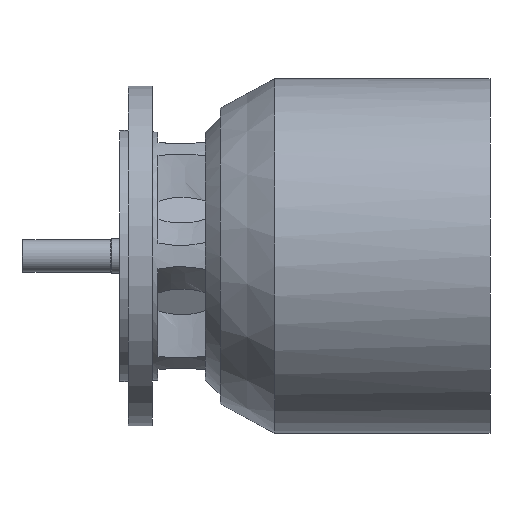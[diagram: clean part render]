
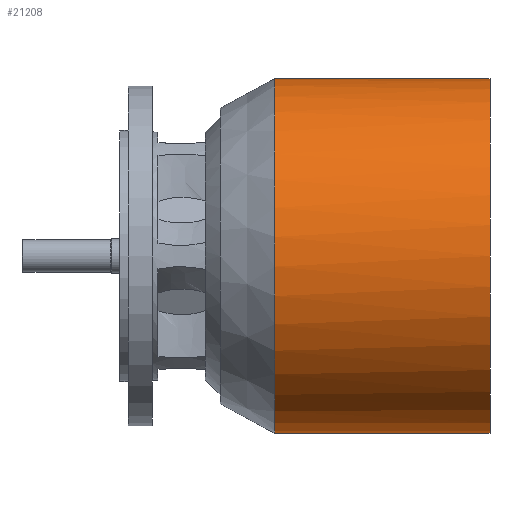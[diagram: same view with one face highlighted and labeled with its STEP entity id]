
A CAD part, front view. The second image highlights one B-rep face of the part: STEP entity #21208.
In plain terms, the highlighted cylindrical face has radius 60 mm (diameter 120 mm), a full revolution.
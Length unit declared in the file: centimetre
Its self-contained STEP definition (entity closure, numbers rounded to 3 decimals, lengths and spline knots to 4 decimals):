
#34=ELLIPSE('',#23179,6.0003,6.);
#639=FACE_BOUND('',#4111,.T.);
#640=FACE_BOUND('',#4112,.T.);
#2580=FACE_OUTER_BOUND('',#4110,.T.);
#4110=EDGE_LOOP('',(#19210,#19211,#19212,#19213,#19214,#19215));
#4111=EDGE_LOOP('',(#19216,#19217,#19218,#19219));
#4112=EDGE_LOOP('',(#19220));
#4597=B_SPLINE_CURVE_WITH_KNOTS('',3,(#37561,#37562,#37563,#37564,#37565,
#37566,#37567,#37568,#37569,#37570),.UNSPECIFIED.,.F.,.F.,(4,2,2,2,4),(-2.8818,
-2.7183,-2.5548,-2.3509,-2.147),
 .UNSPECIFIED.);
#4598=B_SPLINE_CURVE_WITH_KNOTS('',3,(#37573,#37574,#37575,#37576,#37577,
#37578,#37579,#37580,#37581,#37582),.UNSPECIFIED.,.F.,.F.,(4,2,2,2,4),(-2.1756,
-1.9717,-1.7678,-1.6043,-1.4409),
 .UNSPECIFIED.);
#5399=CIRCLE('',#23170,6.);
#5406=CIRCLE('',#23178,6.);
#5407=CIRCLE('',#23180,6.);
#5408=CIRCLE('',#23181,6.);
#6856=LINE('',#36836,#8500);
#6995=LINE('',#37555,#8639);
#6996=LINE('',#37559,#8640);
#6997=LINE('',#37586,#8641);
#8500=VECTOR('',#27865,1.2);
#8639=VECTOR('',#28502,5.818);
#8640=VECTOR('',#28505,5.818);
#8641=VECTOR('',#28510,1.2);
#10433=VERTEX_POINT('',#36833);
#10434=VERTEX_POINT('',#36835);
#10627=VERTEX_POINT('',#37538);
#10634=VERTEX_POINT('',#37553);
#10635=VERTEX_POINT('',#37554);
#10636=VERTEX_POINT('',#37556);
#10637=VERTEX_POINT('',#37558);
#10638=VERTEX_POINT('',#37560);
#10639=VERTEX_POINT('',#37571);
#10640=VERTEX_POINT('',#37583);
#10641=VERTEX_POINT('',#37585);
#13254=EDGE_CURVE('',#10434,#10433,#6856,.T.);
#13531=EDGE_CURVE('',#10627,#10627,#5399,.T.);
#13538=EDGE_CURVE('',#10634,#10635,#6995,.T.);
#13539=EDGE_CURVE('',#10635,#10636,#5406,.T.);
#13540=EDGE_CURVE('',#10636,#10637,#6996,.T.);
#13541=EDGE_CURVE('',#10637,#10638,#4597,.T.);
#13542=EDGE_CURVE('',#10638,#10639,#34,.T.);
#13543=EDGE_CURVE('',#10639,#10634,#4598,.T.);
#13544=EDGE_CURVE('',#10433,#10640,#5407,.T.);
#13545=EDGE_CURVE('',#10640,#10641,#6997,.T.);
#13546=EDGE_CURVE('',#10641,#10434,#5408,.T.);
#19210=ORIENTED_EDGE('',*,*,#13538,.T.);
#19211=ORIENTED_EDGE('',*,*,#13539,.T.);
#19212=ORIENTED_EDGE('',*,*,#13540,.T.);
#19213=ORIENTED_EDGE('',*,*,#13541,.T.);
#19214=ORIENTED_EDGE('',*,*,#13542,.T.);
#19215=ORIENTED_EDGE('',*,*,#13543,.T.);
#19216=ORIENTED_EDGE('',*,*,#13544,.T.);
#19217=ORIENTED_EDGE('',*,*,#13545,.T.);
#19218=ORIENTED_EDGE('',*,*,#13546,.T.);
#19219=ORIENTED_EDGE('',*,*,#13254,.T.);
#19220=ORIENTED_EDGE('',*,*,#13531,.F.);
#20079=CYLINDRICAL_SURFACE('',#23177,6.);
#21208=ADVANCED_FACE('',(#2580,#639,#640),#20079,.T.);
#23170=AXIS2_PLACEMENT_3D('',#37539,#28486,#28487);
#23177=AXIS2_PLACEMENT_3D('',#37552,#28500,#28501);
#23178=AXIS2_PLACEMENT_3D('',#37557,#28503,#28504);
#23179=AXIS2_PLACEMENT_3D('',#37572,#28506,#28507);
#23180=AXIS2_PLACEMENT_3D('',#37584,#28508,#28509);
#23181=AXIS2_PLACEMENT_3D('',#37587,#28511,#28512);
#27865=DIRECTION('',(-1.,0.,0.));
#28486=DIRECTION('center_axis',(1.,0.,0.));
#28487=DIRECTION('ref_axis',(0.,1.,0.));
#28500=DIRECTION('center_axis',(1.,0.,0.));
#28501=DIRECTION('ref_axis',(0.,1.,0.));
#28502=DIRECTION('',(-1.,0.,0.));
#28503=DIRECTION('center_axis',(1.,0.,0.));
#28504=DIRECTION('ref_axis',(0.,0.,-1.));
#28505=DIRECTION('',(1.,0.,0.));
#28506=DIRECTION('center_axis',(1.,0.01,0.));
#28507=DIRECTION('ref_axis',(-0.01,1.,0.));
#28508=DIRECTION('center_axis',(-1.,0.,0.));
#28509=DIRECTION('ref_axis',(0.,0.,-1.));
#28510=DIRECTION('',(1.,0.,0.));
#28511=DIRECTION('center_axis',(1.,0.,0.));
#28512=DIRECTION('ref_axis',(0.,0.,-1.));
#36833=CARTESIAN_POINT('',(9.0479,5.7932,-3.0484));
#36835=CARTESIAN_POINT('',(10.2479,5.7932,-3.0484));
#36836=CARTESIAN_POINT('',(10.2479,5.7932,-3.0484));
#37538=CARTESIAN_POINT('',(14.4779,7.2336,0.8516));
#37539=CARTESIAN_POINT('Origin',(14.4779,1.2336,0.8516));
#37552=CARTESIAN_POINT('Origin',(13.9879,1.2336,0.8516));
#37553=CARTESIAN_POINT('',(13.0159,5.8891,4.6366));
#37554=CARTESIAN_POINT('',(7.1979,5.8891,4.6366));
#37555=CARTESIAN_POINT('',(13.0159,5.8891,4.6366));
#37556=CARTESIAN_POINT('',(7.1979,5.8891,-2.9334));
#37557=CARTESIAN_POINT('Origin',(7.1979,1.2336,0.8516));
#37558=CARTESIAN_POINT('',(13.0159,5.8891,-2.9334));
#37559=CARTESIAN_POINT('',(7.1979,5.8891,-2.9334));
#37560=CARTESIAN_POINT('',(13.4476,6.2113,-2.4984));
#37561=CARTESIAN_POINT('Ctrl Pts',(13.0159,5.8891,-2.9334));
#37562=CARTESIAN_POINT('Ctrl Pts',(13.0704,5.8891,-2.9334));
#37563=CARTESIAN_POINT('Ctrl Pts',(13.1271,5.898,-2.9224));
#37564=CARTESIAN_POINT('Ctrl Pts',(13.2289,5.9311,-2.8811));
#37565=CARTESIAN_POINT('Ctrl Pts',(13.2742,5.9551,-2.8509));
#37566=CARTESIAN_POINT('Ctrl Pts',(13.3536,6.0121,-2.7772));
#37567=CARTESIAN_POINT('Ctrl Pts',(13.3896,6.0508,-2.726));
#37568=CARTESIAN_POINT('Ctrl Pts',(13.4368,6.1314,-2.6148));
#37569=CARTESIAN_POINT('Ctrl Pts',(13.448,6.1733,-2.5548));
#37570=CARTESIAN_POINT('Ctrl Pts',(13.4476,6.2113,-2.4984));
#37571=CARTESIAN_POINT('',(13.4476,6.2113,4.2016));
#37572=CARTESIAN_POINT('Origin',(13.4997,1.2336,0.8516));
#37573=CARTESIAN_POINT('Ctrl Pts',(13.4476,6.2113,4.2016));
#37574=CARTESIAN_POINT('Ctrl Pts',(13.448,6.1733,4.258));
#37575=CARTESIAN_POINT('Ctrl Pts',(13.4368,6.1314,4.318));
#37576=CARTESIAN_POINT('Ctrl Pts',(13.3896,6.0508,4.4292));
#37577=CARTESIAN_POINT('Ctrl Pts',(13.3536,6.0121,4.4804));
#37578=CARTESIAN_POINT('Ctrl Pts',(13.2742,5.9551,4.5542));
#37579=CARTESIAN_POINT('Ctrl Pts',(13.2289,5.9311,4.5844));
#37580=CARTESIAN_POINT('Ctrl Pts',(13.1271,5.898,4.6257));
#37581=CARTESIAN_POINT('Ctrl Pts',(13.0704,5.8891,4.6366));
#37582=CARTESIAN_POINT('Ctrl Pts',(13.0159,5.8891,4.6366));
#37583=CARTESIAN_POINT('',(9.0479,4.3943,-4.2484));
#37584=CARTESIAN_POINT('Origin',(9.0479,1.2336,0.8516));
#37585=CARTESIAN_POINT('',(10.2479,4.3943,-4.2484));
#37586=CARTESIAN_POINT('',(9.0479,4.3943,-4.2484));
#37587=CARTESIAN_POINT('Origin',(10.2479,1.2336,0.8516));
